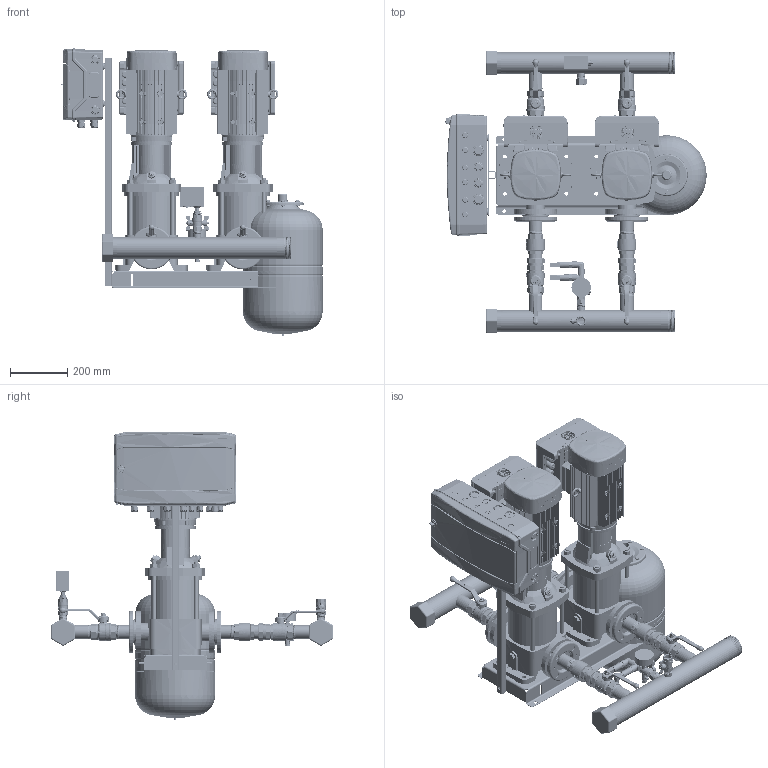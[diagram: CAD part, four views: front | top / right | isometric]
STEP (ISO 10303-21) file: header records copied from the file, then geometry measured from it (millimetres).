
FILE_DESCRIPTION(('CATIA V5 STEP Exchange','CAx-IF Rec.Pracs.--- Model Styling and Organization---1.4--- 2014-01-23','CAx-IF Rec.Pracs.---3D Tessellated Data Validation Properties---0.5---2014-09-14'),'2;1');
FILE_NAME('C:\Users\78432\YandexDisk\Drawings and 3D\3D Hydro Booster\Hydro-ME 3D\Hydro Models\Hydro ME 2 CRV10-xx\Hydro ME 2 CRVE10-5 (DIN).stp','2023-09-20T09:44:44+00:00',('none'),('none'),'CATIA Version 5-6 Release 2019 SP6','CATIA V5 STEP AP242 v1','none');
FILE_SCHEMA(('AP242_MANAGED_MODEL_BASED_3D_ENGINEERING_MIM_LF {1 0 10303 442 1 1 4}'));
Length unit declared in the file: millimetre
Products named in the file (49): Hydro ME 2 CRVE10-5 (DIN); 92051008; CRV10-5 Set (DIN); CRV 10-5_A_DIN_2.2kW; Base; Sleeve; Pumphead; Staybolt.1; Staybolt.2; Staybolt.3; Staybolt.4; Plug; AirVent; Motor; 00id2582; Adapter DN40-1,5" (96619634); 91040268; 91070086; 99110034; Hydraulica NY DN32 1,5 PN16; 92807557_9013-05; DN40_FM_LV_47.303.40; DN40_FF_LV_47.301; SAJ PDH30 0,75-2,2kW; 97941444; 405801; 405816; 91040267; 97941481; 00ID7527; Holder and CP 18mod; 92878909; Control ME (18mod); 2 sensors + manometer cpl.; manometr 16 bar; RPD-I-G1_2; 9021-01; 2070 1/2-1/2; _2020 1/2-1/2; 98594078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
Assembly tree (57 placements, depth 4):
  Hydro ME 2 CRVE10-5 (DIN)
    92051008
    CRV10-5 Set (DIN)  x2
      CRV 10-5_A_DIN_2.2kW
        Base
        Sleeve
        Pumphead
        Staybolt.1
        Staybolt.2
        Staybolt.3
        Staybolt.4
        Plug
        AirVent
        Motor
      00id2582
      Adapter DN40-1,5" (96619634)
        91040268
        91070086
        99110034
      Hydraulica NY DN32 1,5 PN16
      92807557_9013-05
      DN40_FM_LV_47.303.40
      DN40_FF_LV_47.301
      SAJ PDH30 0,75-2,2kW
    97941444  x2
      405801
      405816
      91040267
      97941481
    00ID7527  x2
    Holder and CP 18mod
      92878909
      Control ME (18mod)
    2 sensors + manometer cpl.
      manometr 16 bar
      RPD-I-G1_2  x2
      9021-01
      2070 1/2-1/2
      _2020 1/2-1/2
      98594078
    Tank 24L cpl.
      DN20_FF_BF_47.300.20
      9021-03
    Relay cpl.
      Relay RD-2R
      DN20_FF_BF_47.300.20
      2530 3/4-1/2
      _2530 1/2-1/4
    91078139
  WAV-24(D140 1'')
Bounding box: 916.82 x 989.22 x 1009.9 mm (x, y, z)
Volume: 68163798.2 mm3; surface area: 7067850.6 mm2
Topology: 178 solids, 206 shells, 24145 faces, 69336 edges, 46256 vertices
Faces by surface type: plane 9260, cylinder 6201, bspline 6168, cone 1699, torus 518, sphere 169, extrusion 130
Entity records: 658325 total; most frequent: CARTESIAN_POINT 331454, ORIENTED_EDGE 84512, EDGE_CURVE 42729, DIRECTION 38032, VERTEX_POINT 28448, B_SPLINE_CURVE_WITH_KNOTS 17510, VECTOR 17063, LINE 16998
